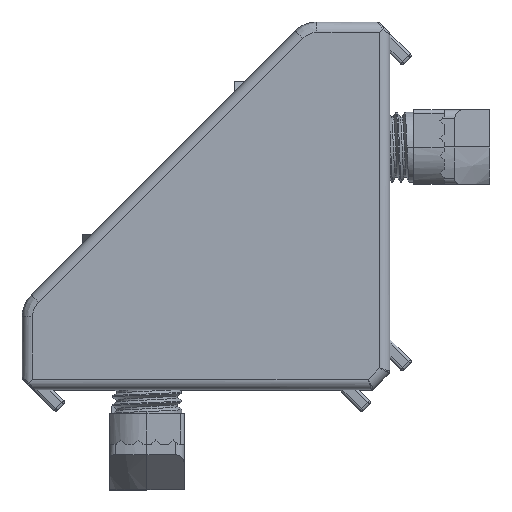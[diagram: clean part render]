
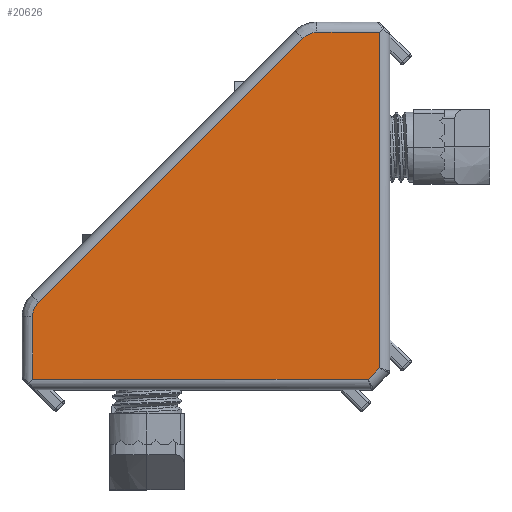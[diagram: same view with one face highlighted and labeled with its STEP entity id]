
A CAD part, top view. The second image highlights one B-rep face of the part: STEP entity #20626.
In plain terms, the highlighted planar face has unit normal (0, 0, 1).
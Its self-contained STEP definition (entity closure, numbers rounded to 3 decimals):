
#377 = VECTOR ( 'NONE', #27840, 1000. ) ;
#1378 = CARTESIAN_POINT ( 'NONE',  ( -40.563, 9.539, 21. ) ) ;
#1847 = CARTESIAN_POINT ( 'NONE',  ( -40.8, 8.35, 21. ) ) ;
#2222 = CARTESIAN_POINT ( 'NONE',  ( -40.126, 9.977, 21. ) ) ;
#2771 = CARTESIAN_POINT ( 'NONE',  ( -8.968, 40.8, 21. ) ) ;
#3882 = CARTESIAN_POINT ( 'NONE',  ( -2.497, 1.2, 21. ) ) ;
#4134 = DIRECTION ( 'NONE',  ( -0.707, -0.707, 0. ) ) ;
#4264 = CARTESIAN_POINT ( 'NONE',  ( -40.8, 8.968, 21. ) ) ;
#5101 = VERTEX_POINT ( 'NONE', #19606 ) ;
#5439 = VECTOR ( 'NONE', #30688, 1000. ) ;
#5711 = LINE ( 'NONE', #20487, #28514 ) ;
#6256 = FACE_OUTER_BOUND ( 'NONE', #14650, .T. ) ;
#6728 = VECTOR ( 'NONE', #4134, 1000. ) ;
#7073 = ORIENTED_EDGE ( 'NONE', *, *, #20668, .F. ) ;
#7187 = DIRECTION ( 'NONE',  ( 0., 0., -1. ) ) ;
#7570 = LINE ( 'NONE', #8694, #377 ) ;
#7893 = EDGE_CURVE ( 'NONE', #5101, #13478, #18799, .T. ) ;
#8694 = CARTESIAN_POINT ( 'NONE',  ( 0., 1.2, 21. ) ) ;
#8917 = VERTEX_POINT ( 'NONE', #18413 ) ;
#9328 = VERTEX_POINT ( 'NONE', #12815 ) ;
#10676 = DIRECTION ( 'NONE',  ( 1., 0., 0. ) ) ;
#11166 = CARTESIAN_POINT ( 'NONE',  ( -40.126, 9.977, 21. ) ) ;
#11615 = VERTEX_POINT ( 'NONE', #3882 ) ;
#11943 = EDGE_CURVE ( 'NONE', #15743, #17571, #15839, .T. ) ;
#12447 = ORIENTED_EDGE ( 'NONE', *, *, #11943, .F. ) ;
#12815 = CARTESIAN_POINT ( 'NONE',  ( -9.977, 40.126, 21. ) ) ;
#13478 = VERTEX_POINT ( 'NONE', #19067 ) ;
#13486 =( BOUNDED_CURVE ( )  B_SPLINE_CURVE ( 3, ( #1847, #4264, #1378, #11166 ),
 .UNSPECIFIED., .F., .F. ) 
 B_SPLINE_CURVE_WITH_KNOTS ( ( 4, 4 ),
 ( 0., 1. ),
 .UNSPECIFIED. ) 
 CURVE ( )  GEOMETRIC_REPRESENTATION_ITEM ( )  RATIONAL_B_SPLINE_CURVE ( ( 1., 0.949, 0.949, 1. ) ) 
 REPRESENTATION_ITEM ( '' )  );
#14650 = EDGE_LOOP ( 'NONE', ( #24634, #27418, #7073, #22140, #12447, #22902, #24515, #31228 ) ) ;
#14827 = CARTESIAN_POINT ( 'NONE',  ( -9.977, 40.126, 21. ) ) ;
#15534 =( BOUNDED_CURVE ( )  B_SPLINE_CURVE ( 3, ( #14827, #22237, #2771, #29814 ),
 .UNSPECIFIED., .F., .F. ) 
 B_SPLINE_CURVE_WITH_KNOTS ( ( 4, 4 ),
 ( 0., 1. ),
 .UNSPECIFIED. ) 
 CURVE ( )  GEOMETRIC_REPRESENTATION_ITEM ( )  RATIONAL_B_SPLINE_CURVE ( ( 1., 0.949, 0.949, 1. ) ) 
 REPRESENTATION_ITEM ( '' )  );
#15743 = VERTEX_POINT ( 'NONE', #27912 ) ;
#15839 = LINE ( 'NONE', #25668, #5439 ) ;
#16545 = CARTESIAN_POINT ( 'NONE',  ( -1.2, 0., 21. ) ) ;
#17437 = EDGE_CURVE ( 'NONE', #11615, #15743, #7570, .T. ) ;
#17571 = VERTEX_POINT ( 'NONE', #20422 ) ;
#18413 = CARTESIAN_POINT ( 'NONE',  ( -8.35, 40.8, 21. ) ) ;
#18799 = LINE ( 'NONE', #16545, #30766 ) ;
#19067 = CARTESIAN_POINT ( 'NONE',  ( -1.2, 2.497, 21. ) ) ;
#19606 = CARTESIAN_POINT ( 'NONE',  ( -1.2, 40.8, 21. ) ) ;
#20422 = CARTESIAN_POINT ( 'NONE',  ( -40.8, 8.35, 21. ) ) ;
#20487 = CARTESIAN_POINT ( 'NONE',  ( 0., 40.8, 21. ) ) ;
#20626 = ADVANCED_FACE ( 'NONE', ( #6256 ), #31361, .F. ) ;
#20668 = EDGE_CURVE ( 'NONE', #23219, #9328, #26824, .T. ) ;
#20706 = LINE ( 'NONE', #21343, #6728 ) ;
#21343 = CARTESIAN_POINT ( 'NONE',  ( -1.2, 2.497, 21. ) ) ;
#21684 = CARTESIAN_POINT ( 'NONE',  ( 0., 0., 21. ) ) ;
#22140 = ORIENTED_EDGE ( 'NONE', *, *, #26282, .F. ) ;
#22237 = CARTESIAN_POINT ( 'NONE',  ( -9.539, 40.563, 21. ) ) ;
#22902 = ORIENTED_EDGE ( 'NONE', *, *, #17437, .F. ) ;
#23219 = VERTEX_POINT ( 'NONE', #26193 ) ;
#24091 = DIRECTION ( 'NONE',  ( -1., 0., 0. ) ) ;
#24515 = ORIENTED_EDGE ( 'NONE', *, *, #30184, .F. ) ;
#24634 = ORIENTED_EDGE ( 'NONE', *, *, #28875, .F. ) ;
#25668 = CARTESIAN_POINT ( 'NONE',  ( -40.8, 0., 21. ) ) ;
#26193 = CARTESIAN_POINT ( 'NONE',  ( -40.126, 9.977, 21. ) ) ;
#26282 = EDGE_CURVE ( 'NONE', #17571, #23219, #13486, .T. ) ;
#26824 = LINE ( 'NONE', #2222, #28756 ) ;
#27418 = ORIENTED_EDGE ( 'NONE', *, *, #29183, .F. ) ;
#27840 = DIRECTION ( 'NONE',  ( -1., 0., 0. ) ) ;
#27912 = CARTESIAN_POINT ( 'NONE',  ( -40.8, 1.2, 21. ) ) ;
#28514 = VECTOR ( 'NONE', #10676, 1000. ) ;
#28647 = DIRECTION ( 'NONE',  ( 0., -1., 0. ) ) ;
#28756 = VECTOR ( 'NONE', #31670, 1000. ) ;
#28875 = EDGE_CURVE ( 'NONE', #8917, #5101, #5711, .T. ) ;
#29183 = EDGE_CURVE ( 'NONE', #9328, #8917, #15534, .T. ) ;
#29814 = CARTESIAN_POINT ( 'NONE',  ( -8.35, 40.8, 21. ) ) ;
#30184 = EDGE_CURVE ( 'NONE', #13478, #11615, #20706, .T. ) ;
#30688 = DIRECTION ( 'NONE',  ( 0., 1., 0. ) ) ;
#30766 = VECTOR ( 'NONE', #28647, 1000. ) ;
#31228 = ORIENTED_EDGE ( 'NONE', *, *, #7893, .F. ) ;
#31361 = PLANE ( 'NONE',  #31831 ) ;
#31670 = DIRECTION ( 'NONE',  ( 0.707, 0.707, 0. ) ) ;
#31831 = AXIS2_PLACEMENT_3D ( 'NONE', #21684, #7187, #24091 ) ;
